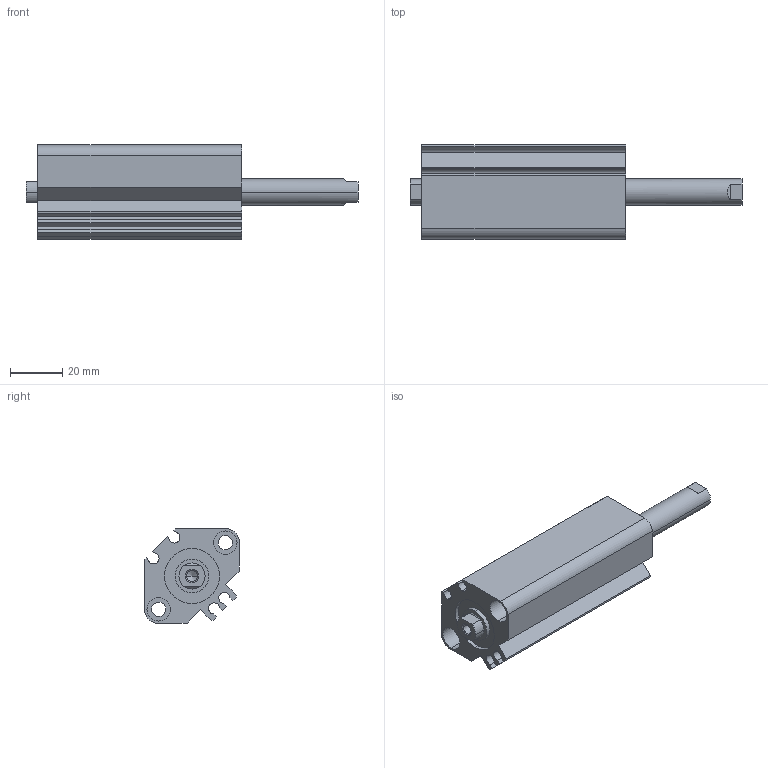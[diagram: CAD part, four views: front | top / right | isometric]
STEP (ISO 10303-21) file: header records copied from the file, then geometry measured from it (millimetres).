
FILE_DESCRIPTION (( 'STEP AP203' ), '1' );
FILE_NAME ('CCMB20-40F-P.STEP', '2020-08-05T11:07:25', ( '' ), ( '' ), 'SwSTEP 2.0', 'SolidWorks 2019', '' );
FILE_SCHEMA (( 'CONFIG_CONTROL_DESIGN' ));
Length unit declared in the file: millimetre
Products named in the file (1): CCMB20-40F-P
Bounding box: 127 x 36 x 36 mm (x, y, z)
Volume: 69831.4 mm3; surface area: 28646.1 mm2
Topology: 2 solids, 2 shells, 114 faces, 276 edges, 178 vertices
Faces by surface type: cylinder 52, plane 50, cone 12
Entity records: 3419 total; most frequent: DIRECTION 614, CARTESIAN_POINT 577, ORIENTED_EDGE 544, EDGE_CURVE 272, AXIS2_PLACEMENT_3D 231, VERTEX_POINT 178, LINE 152, VECTOR 152
